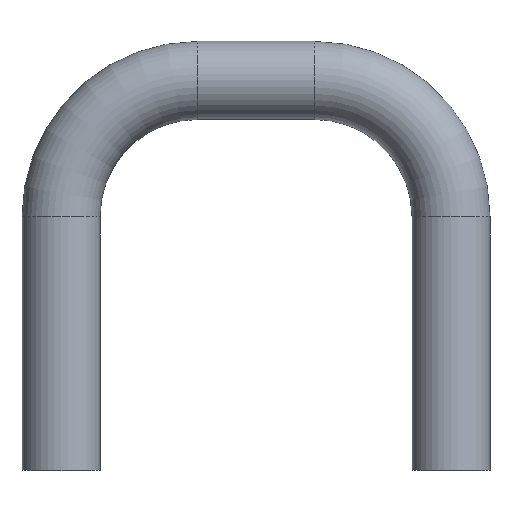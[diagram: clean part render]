
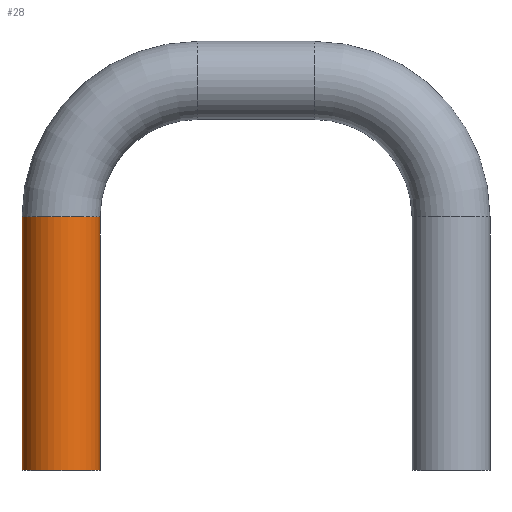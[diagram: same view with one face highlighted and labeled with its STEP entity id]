
A CAD part, top view. The second image highlights one B-rep face of the part: STEP entity #28.
In plain terms, the highlighted cylindrical face has radius 2 mm (diameter 4 mm), a partial arc.
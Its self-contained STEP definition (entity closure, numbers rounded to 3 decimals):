
#13 = EDGE_CURVE ( 'NONE', #390, #367, #495, .T. ) ;
#14 = EDGE_CURVE ( 'NONE', #385, #367, #497, .T. ) ;
#17 = EDGE_CURVE ( 'NONE', #383, #390, #502, .T. ) ;
#18 = EDGE_CURVE ( 'NONE', #383, #385, #500, .T. ) ;
#28 = ADVANCED_FACE ( 'NONE', ( #357 ), #352, .T. ) ;
#68 = AXIS2_PLACEMENT_3D ( 'NONE', #138, #139, #140 ) ;
#70 = AXIS2_PLACEMENT_3D ( 'NONE', #147, #148, #149 ) ;
#80 = AXIS2_PLACEMENT_3D ( 'NONE', #176, #177, #175 ) ;
#107 = DIRECTION ( 'NONE',  ( 0., -1., 0. ) ) ;
#132 = CARTESIAN_POINT ( 'NONE',  ( -8., -8.5, 0. ) ) ;
#138 = CARTESIAN_POINT ( 'NONE',  ( -10., -21.5, 0. ) ) ;
#139 = DIRECTION ( 'NONE',  ( 0., 1., 0. ) ) ;
#140 = DIRECTION ( 'NONE',  ( 0., 0., 1. ) ) ;
#141 = DIRECTION ( 'NONE',  ( 0., -1., 0. ) ) ;
#146 = CARTESIAN_POINT ( 'NONE',  ( -12., -8.5, 0. ) ) ;
#147 = CARTESIAN_POINT ( 'NONE',  ( -10., -8.5, 0. ) ) ;
#148 = DIRECTION ( 'NONE',  ( 0., 1., 0. ) ) ;
#149 = DIRECTION ( 'NONE',  ( 0., 0., 1. ) ) ;
#175 = DIRECTION ( 'NONE',  ( 1., 0., 0. ) ) ;
#176 = CARTESIAN_POINT ( 'NONE',  ( -10., -8.5, 0. ) ) ;
#177 = DIRECTION ( 'NONE',  ( 0., -1., 0. ) ) ;
#248 = CARTESIAN_POINT ( 'NONE',  ( -8., -21.5, 0. ) ) ;
#268 = CARTESIAN_POINT ( 'NONE',  ( -12., -8.5, 0. ) ) ;
#270 = CARTESIAN_POINT ( 'NONE',  ( -12., -21.5, 0. ) ) ;
#275 = CARTESIAN_POINT ( 'NONE',  ( -8., -8.5, 0. ) ) ;
#352 = CYLINDRICAL_SURFACE ( 'NONE', #80, 2. ) ;
#357 = FACE_OUTER_BOUND ( 'NONE', #463, .T. ) ;
#367 = VERTEX_POINT ( 'NONE', #248 ) ;
#383 = VERTEX_POINT ( 'NONE', #268 ) ;
#385 = VERTEX_POINT ( 'NONE', #270 ) ;
#390 = VERTEX_POINT ( 'NONE', #275 ) ;
#398 = ORIENTED_EDGE ( 'NONE', *, *, #17, .F. ) ;
#399 = ORIENTED_EDGE ( 'NONE', *, *, #14, .T. ) ;
#400 = ORIENTED_EDGE ( 'NONE', *, *, #13, .F. ) ;
#450 = ORIENTED_EDGE ( 'NONE', *, *, #18, .T. ) ;
#463 = EDGE_LOOP ( 'NONE', ( #398, #450, #399, #400 ) ) ;
#495 = LINE ( 'NONE', #132, #498 ) ;
#497 = CIRCLE ( 'NONE', #68, 2. ) ;
#498 = VECTOR ( 'NONE', #107, 1000. ) ;
#500 = LINE ( 'NONE', #146, #504 ) ;
#502 = CIRCLE ( 'NONE', #70, 2. ) ;
#504 = VECTOR ( 'NONE', #141, 1000. ) ;
